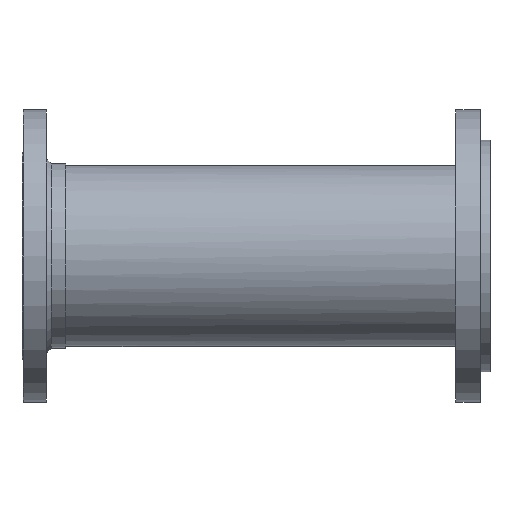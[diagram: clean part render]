
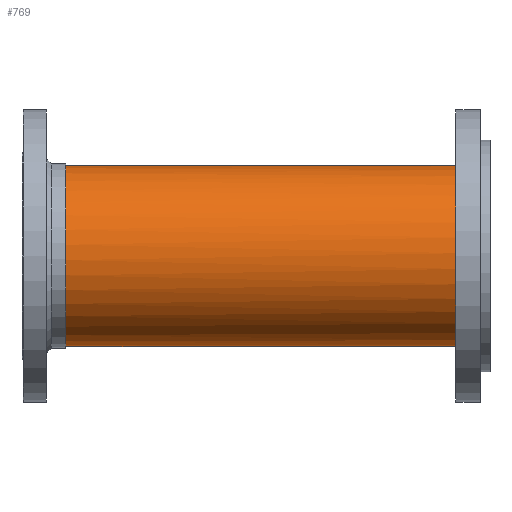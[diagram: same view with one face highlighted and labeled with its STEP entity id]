
A CAD part, left-side view. The second image highlights one B-rep face of the part: STEP entity #769.
In plain terms, the highlighted cylindrical face has radius 117.983 mm (diameter 235.966 mm), a full revolution.
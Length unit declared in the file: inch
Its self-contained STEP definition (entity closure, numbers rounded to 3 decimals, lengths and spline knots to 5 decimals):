
#28=FACE_BOUND('',#175,.T.);
#125=FACE_OUTER_BOUND('',#174,.T.);
#174=EDGE_LOOP('',(#539));
#175=EDGE_LOOP('',(#540));
#320=CIRCLE('',#821,4.645);
#321=CIRCLE('',#822,4.645);
#393=VERTEX_POINT('',#1190);
#394=VERTEX_POINT('',#1192);
#466=EDGE_CURVE('',#393,#393,#320,.T.);
#467=EDGE_CURVE('',#394,#394,#321,.T.);
#539=ORIENTED_EDGE('',*,*,#466,.F.);
#540=ORIENTED_EDGE('',*,*,#467,.F.);
#685=CYLINDRICAL_SURFACE('',#820,4.645);
#769=ADVANCED_FACE('',(#125,#28),#685,.T.);
#820=AXIS2_PLACEMENT_3D('',#1189,#944,#945);
#821=AXIS2_PLACEMENT_3D('',#1191,#946,#947);
#822=AXIS2_PLACEMENT_3D('',#1193,#948,#949);
#944=DIRECTION('center_axis',(0.,-1.,0.));
#945=DIRECTION('ref_axis',(0.285,0.,0.959));
#946=DIRECTION('center_axis',(0.,-1.,0.));
#947=DIRECTION('ref_axis',(-0.746,0.,0.666));
#948=DIRECTION('center_axis',(0.,1.,0.));
#949=DIRECTION('ref_axis',(0.747,0.,0.664));
#1189=CARTESIAN_POINT('Origin',(0.,22.75,0.));
#1190=CARTESIAN_POINT('',(3.46363,1.5,-3.09504));
#1191=CARTESIAN_POINT('Origin',(0.,1.5,0.));
#1192=CARTESIAN_POINT('',(-3.47141,21.75,-3.08631));
#1193=CARTESIAN_POINT('Origin',(0.,21.75,0.));
